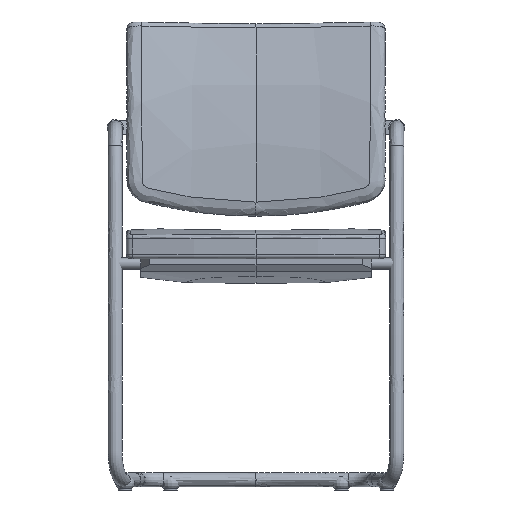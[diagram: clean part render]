
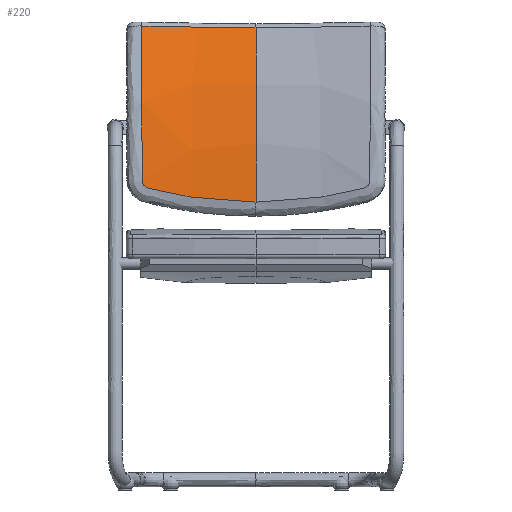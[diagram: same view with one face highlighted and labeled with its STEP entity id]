
A CAD part, front view. The second image highlights one B-rep face of the part: STEP entity #220.
In plain terms, the highlighted free-form (B-spline) face has degree [3, 3] with [6, 8] control points.
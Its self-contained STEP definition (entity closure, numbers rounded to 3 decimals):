
#220=ADVANCED_FACE('',(#330),#1594,.T.);
#330=FACE_OUTER_BOUND('',#440,.T.);
#440=EDGE_LOOP('',(#853,#854,#855));
#853=ORIENTED_EDGE('',*,*,#1114,.T.);
#854=ORIENTED_EDGE('',*,*,#1103,.F.);
#855=ORIENTED_EDGE('',*,*,#1107,.F.);
#1103=EDGE_CURVE('',#1483,#1489,#1336,.T.);
#1107=EDGE_CURVE('',#1491,#1483,#1340,.T.);
#1114=EDGE_CURVE('',#1491,#1489,#1347,.T.);
#1336=B_SPLINE_CURVE_WITH_KNOTS('',3,(#8022,#8023,#8024,#8025,#8026,#8027,
#8028,#8029,#8030,#8031,#8032,#8033,#8034,#8035,#8036,#8037,#8038,#8039,
#8040,#8041,#8042,#8043),.UNSPECIFIED.,.F.,.F.,(4,2,2,1,1,1,2,2,2,1,1,1,
2,4),(-501.214,-452.23,-403.247,-307.844,
-305.279,-302.715,-300.15,-295.021,
-289.892,-287.328,-284.763,-282.199,
-142.382,-9.945),.UNSPECIFIED.);
#1340=B_SPLINE_CURVE_WITH_KNOTS('',3,(#8076,#8077,#8078,#8079,#8080,#8081,
#8082,#8083),.UNSPECIFIED.,.F.,.F.,(4,2,2,4),(-336.791,-231.158,
-115.579,-25.335),.UNSPECIFIED.);
#1347=B_SPLINE_CURVE_WITH_KNOTS('',3,(#8114,#8115,#8116,#8117),
 .UNSPECIFIED.,.F.,.F.,(4,4),(0.,204.903),
 .UNSPECIFIED.);
#1483=VERTEX_POINT('',#8005);
#1489=VERTEX_POINT('',#8011);
#1491=VERTEX_POINT('',#8013);
#1594=B_SPLINE_SURFACE_WITH_KNOTS('',3,3,((#7240,#7241,#7242,#7243,#7244,
#7245,#7246,#7247),(#7248,#7249,#7250,#7251,#7252,#7253,#7254,#7255),(#7256,
#7257,#7258,#7259,#7260,#7261,#7262,#7263),(#7264,#7265,#7266,#7267,#7268,
#7269,#7270,#7271),(#7272,#7273,#7274,#7275,#7276,#7277,#7278,#7279),(#7280,
#7281,#7282,#7283,#7284,#7285,#7286,#7287)),.UNSPECIFIED.,.F.,.F.,.F.,(4,
2,4),(4,2,2,4),(0.,115.579,231.158),(0.,115.579,
231.158,346.737),.UNSPECIFIED.);
#7240=CARTESIAN_POINT('',(-227.279,172.428,488.723));
#7241=CARTESIAN_POINT('',(-227.261,172.47,527.84));
#7242=CARTESIAN_POINT('',(-227.249,174.776,566.989));
#7243=CARTESIAN_POINT('',(-227.237,183.886,644.739));
#7244=CARTESIAN_POINT('',(-227.237,190.688,683.334));
#7245=CARTESIAN_POINT('',(-227.249,208.707,759.506));
#7246=CARTESIAN_POINT('',(-227.261,219.922,797.078));
#7247=CARTESIAN_POINT('',(-227.279,233.254,833.847));
#7248=CARTESIAN_POINT('',(-189.792,178.898,487.569));
#7249=CARTESIAN_POINT('',(-189.777,178.938,526.689));
#7250=CARTESIAN_POINT('',(-189.767,181.244,565.842));
#7251=CARTESIAN_POINT('',(-189.757,190.354,643.597));
#7252=CARTESIAN_POINT('',(-189.757,197.157,682.196));
#7253=CARTESIAN_POINT('',(-189.767,215.178,758.373));
#7254=CARTESIAN_POINT('',(-189.777,226.394,795.949));
#7255=CARTESIAN_POINT('',(-189.792,239.728,832.72));
#7256=CARTESIAN_POINT('',(-151.999,183.768,486.701));
#7257=CARTESIAN_POINT('',(-151.987,183.808,525.822));
#7258=CARTESIAN_POINT('',(-151.979,186.113,564.978));
#7259=CARTESIAN_POINT('',(-151.97,195.223,642.738));
#7260=CARTESIAN_POINT('',(-151.97,202.027,681.339));
#7261=CARTESIAN_POINT('',(-151.979,220.049,757.521));
#7262=CARTESIAN_POINT('',(-151.987,231.266,795.098));
#7263=CARTESIAN_POINT('',(-151.999,244.602,831.871));
#7264=CARTESIAN_POINT('',(-76.138,190.265,485.542));
#7265=CARTESIAN_POINT('',(-76.132,190.304,524.667));
#7266=CARTESIAN_POINT('',(-76.128,192.609,563.825));
#7267=CARTESIAN_POINT('',(-76.124,201.718,641.592));
#7268=CARTESIAN_POINT('',(-76.124,208.522,680.195));
#7269=CARTESIAN_POINT('',(-76.128,226.547,756.383));
#7270=CARTESIAN_POINT('',(-76.132,237.766,793.963));
#7271=CARTESIAN_POINT('',(-76.138,251.103,830.739));
#7272=CARTESIAN_POINT('',(-38.069,191.892,485.252));
#7273=CARTESIAN_POINT('',(-38.066,191.93,524.377));
#7274=CARTESIAN_POINT('',(-38.064,194.235,563.536));
#7275=CARTESIAN_POINT('',(-38.062,203.344,641.305));
#7276=CARTESIAN_POINT('',(-38.062,210.149,679.909));
#7277=CARTESIAN_POINT('',(-38.064,228.174,756.098));
#7278=CARTESIAN_POINT('',(-38.066,239.393,793.679));
#7279=CARTESIAN_POINT('',(-38.069,252.731,830.455));
#7280=CARTESIAN_POINT('',(0.,191.892,485.252));
#7281=CARTESIAN_POINT('',(0.,191.93,524.377));
#7282=CARTESIAN_POINT('',(0.,194.235,563.536));
#7283=CARTESIAN_POINT('',(0.,203.344,641.305));
#7284=CARTESIAN_POINT('',(0.,210.149,679.909));
#7285=CARTESIAN_POINT('',(0.,228.174,756.098));
#7286=CARTESIAN_POINT('',(0.,239.393,793.679));
#7287=CARTESIAN_POINT('',(0.,252.731,830.455));
#8005=CARTESIAN_POINT('',(0.,192.243,510.982));
#8011=CARTESIAN_POINT('',(-202.571,233.886,823.632));
#8013=CARTESIAN_POINT('',(0.,249.335,820.944));
#8022=CARTESIAN_POINT('',(0.,192.243,510.982));
#8023=CARTESIAN_POINT('',(-16.142,192.244,510.982));
#8024=CARTESIAN_POINT('',(-32.284,191.963,511.507));
#8025=CARTESIAN_POINT('',(-64.481,190.849,513.596));
#8026=CARTESIAN_POINT('',(-80.535,190.016,515.163));
#8027=CARTESIAN_POINT('',(-127.611,186.786,521.27));
#8028=CARTESIAN_POINT('',(-159.219,183.564,527.44));
#8029=CARTESIAN_POINT('',(-191.022,179.354,535.642));
#8030=CARTESIAN_POINT('',(-193.464,179.036,536.448));
#8031=CARTESIAN_POINT('',(-194.95,178.857,537.306));
#8032=CARTESIAN_POINT('',(-197.07,178.613,538.745));
#8033=CARTESIAN_POINT('',(-198.322,178.486,539.948));
#8034=CARTESIAN_POINT('',(-200.38,178.319,542.69));
#8035=CARTESIAN_POINT('',(-201.188,178.281,544.231));
#8036=CARTESIAN_POINT('',(-202.,178.297,546.673));
#8037=CARTESIAN_POINT('',(-202.428,178.33,548.347));
#8038=CARTESIAN_POINT('',(-202.579,178.465,550.911));
#8039=CARTESIAN_POINT('',(-202.521,181.624,599.9));
#8040=CARTESIAN_POINT('',(-202.542,188.149,647.78));
#8041=CARTESIAN_POINT('',(-202.542,206.958,738.03));
#8042=CARTESIAN_POINT('',(-202.554,219.02,781.323));
#8043=CARTESIAN_POINT('',(-202.571,233.886,823.632));
#8076=CARTESIAN_POINT('',(0.,249.335,820.944));
#8077=CARTESIAN_POINT('',(0.,237.479,787.208));
#8078=CARTESIAN_POINT('',(0.,227.398,752.82));
#8079=CARTESIAN_POINT('',(0.,210.149,679.909));
#8080=CARTESIAN_POINT('',(0.,203.344,641.305));
#8081=CARTESIAN_POINT('',(0.,195.233,572.06));
#8082=CARTESIAN_POINT('',(0.,193.048,541.531));
#8083=CARTESIAN_POINT('',(0.,192.243,510.982));
#8114=CARTESIAN_POINT('',(0.,249.335,820.944));
#8115=CARTESIAN_POINT('',(-67.793,249.339,820.943));
#8116=CARTESIAN_POINT('',(-135.585,244.165,821.843));
#8117=CARTESIAN_POINT('',(-202.571,233.886,823.632));
